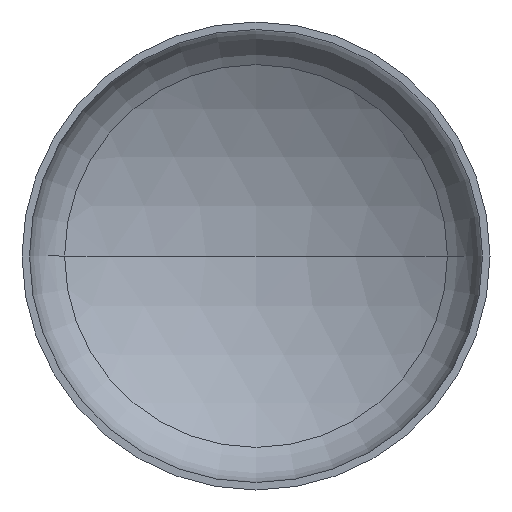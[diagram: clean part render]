
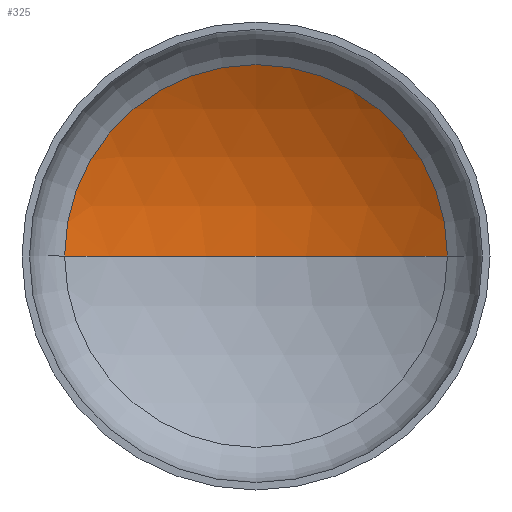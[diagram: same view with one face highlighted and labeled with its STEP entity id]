
A CAD part, front view. The second image highlights one B-rep face of the part: STEP entity #325.
In plain terms, the highlighted spherical face has radius 4400 mm.
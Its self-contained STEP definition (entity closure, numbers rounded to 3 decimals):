
#30 = ORIENTED_EDGE ( 'NONE', *, *, #326, .F. ) ;
#40 = DIRECTION ( 'NONE',  ( 0., 0., 1. ) ) ;
#50 = VERTEX_POINT ( 'NONE', #335 ) ;
#84 = CARTESIAN_POINT ( 'NONE',  ( 0., 826.29, 0. ) ) ;
#97 = VERTEX_POINT ( 'NONE', #292 ) ;
#103 = VERTEX_POINT ( 'NONE', #274 ) ;
#108 = CARTESIAN_POINT ( 'NONE',  ( 0., -2955.575, 0. ) ) ;
#112 = DIRECTION ( 'NONE',  ( 0., 0., -1. ) ) ;
#119 = EDGE_LOOP ( 'NONE', ( #30, #130, #136 ) ) ;
#130 = ORIENTED_EDGE ( 'NONE', *, *, #348, .T. ) ;
#136 = ORIENTED_EDGE ( 'NONE', *, *, #359, .T. ) ;
#157 = DIRECTION ( 'NONE',  ( 0., -1., 0. ) ) ;
#180 = CARTESIAN_POINT ( 'NONE',  ( 0., -2955.575, 0. ) ) ;
#206 = CIRCLE ( 'NONE', #242, 4400. ) ;
#230 = DIRECTION ( 'NONE',  ( 0., 0., -1. ) ) ;
#242 = AXIS2_PLACEMENT_3D ( 'NONE', #251, #40, #279 ) ;
#251 = CARTESIAN_POINT ( 'NONE',  ( 0., -2955.575, 0. ) ) ;
#271 = AXIS2_PLACEMENT_3D ( 'NONE', #180, #112, #343 ) ;
#274 = CARTESIAN_POINT ( 'NONE',  ( -2248.889, 826.29, 0. ) ) ;
#279 = DIRECTION ( 'NONE',  ( 1., 0., 0. ) ) ;
#286 = DIRECTION ( 'NONE',  ( 1., 0., 0. ) ) ;
#292 = CARTESIAN_POINT ( 'NONE',  ( 0., 1444.425, 0. ) ) ;
#309 = AXIS2_PLACEMENT_3D ( 'NONE', #108, #230, #400 ) ;
#325 = ADVANCED_FACE ( 'NONE', ( #341 ), #350, .F. ) ;
#326 = EDGE_CURVE ( 'NONE', #97, #103, #206, .T. ) ;
#330 = CIRCLE ( 'NONE', #331, 2248.889 ) ;
#331 = AXIS2_PLACEMENT_3D ( 'NONE', #84, #157, #286 ) ;
#335 = CARTESIAN_POINT ( 'NONE',  ( 2248.889, 826.29, 0. ) ) ;
#341 = FACE_OUTER_BOUND ( 'NONE', #119, .T. ) ;
#343 = DIRECTION ( 'NONE',  ( -1., 0., 0. ) ) ;
#348 = EDGE_CURVE ( 'NONE', #97, #50, #396, .T. ) ;
#350 = SPHERICAL_SURFACE ( 'NONE', #271, 4400. ) ;
#359 = EDGE_CURVE ( 'NONE', #50, #103, #330, .T. ) ;
#396 = CIRCLE ( 'NONE', #309, 4400. ) ;
#400 = DIRECTION ( 'NONE',  ( -1., 0., 0. ) ) ;
